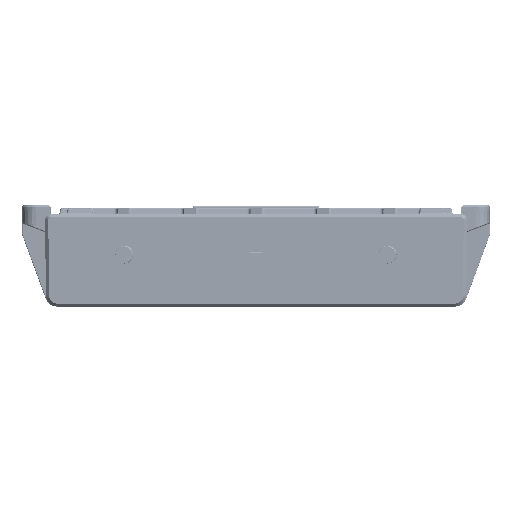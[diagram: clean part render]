
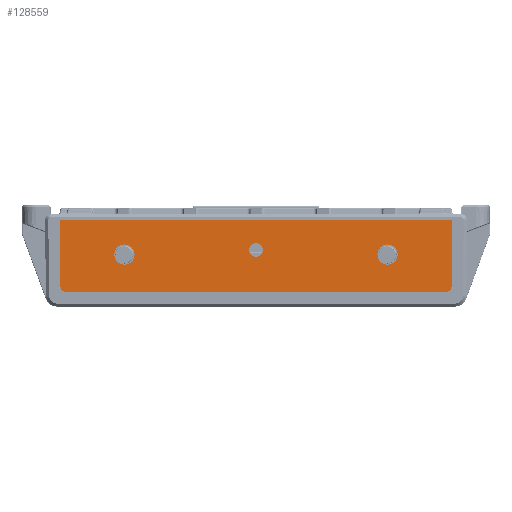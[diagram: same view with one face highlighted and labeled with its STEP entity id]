
A CAD part, left-side view. The second image highlights one B-rep face of the part: STEP entity #128559.
In plain terms, the highlighted planar face has unit normal (-1, 0, 0) as drawn and (0, 0, -1) by its records, which use the part's own axes.
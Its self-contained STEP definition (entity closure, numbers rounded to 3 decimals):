
#889 = EDGE_LOOP ( 'NONE', ( #57913, #52298, #76925, #78725, #153417, #41542 ) ) ;
#3992 = ORIENTED_EDGE ( 'NONE', *, *, #36856, .T. ) ;
#5456 = EDGE_CURVE ( 'NONE', #147754, #50718, #50248, .T. ) ;
#6188 = EDGE_CURVE ( 'NONE', #122253, #43166, #23574, .T. ) ;
#8045 = DIRECTION ( 'NONE',  ( 1., 0., 0. ) ) ;
#10442 = DIRECTION ( 'NONE',  ( 0., 0., 1. ) ) ;
#12851 = VERTEX_POINT ( 'NONE', #42984 ) ;
#14894 = CARTESIAN_POINT ( 'NONE',  ( -45.54, -12., 0. ) ) ;
#15693 = DIRECTION ( 'NONE',  ( 1., 0., 0. ) ) ;
#16447 = CARTESIAN_POINT ( 'NONE',  ( 65.782, -23., 0. ) ) ;
#17516 = EDGE_CURVE ( 'NONE', #133038, #157428, #42113, .T. ) ;
#17729 = CARTESIAN_POINT ( 'NONE',  ( 0., -10.4, 0. ) ) ;
#18870 = EDGE_LOOP ( 'NONE', ( #160213, #51392 ) ) ;
#22674 = DIRECTION ( 'NONE',  ( 0.009, -1., 0. ) ) ;
#23202 = ORIENTED_EDGE ( 'NONE', *, *, #115165, .T. ) ;
#23574 = LINE ( 'NONE', #107122, #27130 ) ;
#24865 = ORIENTED_EDGE ( 'NONE', *, *, #136828, .T. ) ;
#27130 = VECTOR ( 'NONE', #22674, 1000. ) ;
#32906 = DIRECTION ( 'NONE',  ( 1., 0., 0. ) ) ;
#35697 = VERTEX_POINT ( 'NONE', #134044 ) ;
#36856 = EDGE_CURVE ( 'NONE', #170337, #87526, #170851, .T. ) ;
#38575 = FACE_OUTER_BOUND ( 'NONE', #889, .T. ) ;
#38781 = LINE ( 'NONE', #122367, #177099 ) ;
#39866 = CARTESIAN_POINT ( 'NONE',  ( -2.35, -10.4, 0. ) ) ;
#41542 = ORIENTED_EDGE ( 'NONE', *, *, #17516, .F. ) ;
#42113 = LINE ( 'NONE', #136618, #121747 ) ;
#42308 = CARTESIAN_POINT ( 'NONE',  ( 2.35, -10.4, 0. ) ) ;
#42984 = CARTESIAN_POINT ( 'NONE',  ( 67.682, -23.017, 0. ) ) ;
#43166 = VERTEX_POINT ( 'NONE', #114363 ) ;
#43774 = DIRECTION ( 'NONE',  ( 1., 0., 0. ) ) ;
#44152 = CARTESIAN_POINT ( 'NONE',  ( -49.04, -12., 0. ) ) ;
#50248 = CIRCLE ( 'NONE', #122723, 3.5 ) ;
#50465 = FACE_BOUND ( 'NONE', #64769, .T. ) ;
#50718 = VERTEX_POINT ( 'NONE', #115375 ) ;
#51343 = FACE_BOUND ( 'NONE', #122116, .T. ) ;
#51392 = ORIENTED_EDGE ( 'NONE', *, *, #76229, .T. ) ;
#51537 = VERTEX_POINT ( 'NONE', #44152 ) ;
#52298 = ORIENTED_EDGE ( 'NONE', *, *, #6188, .F. ) ;
#56299 = AXIS2_PLACEMENT_3D ( 'NONE', #119473, #77716, #122160 ) ;
#57461 = AXIS2_PLACEMENT_3D ( 'NONE', #16447, #168218, #43774 ) ;
#57913 = ORIENTED_EDGE ( 'NONE', *, *, #73823, .F. ) ;
#60422 = EDGE_CURVE ( 'NONE', #35697, #122253, #76023, .T. ) ;
#63099 = ORIENTED_EDGE ( 'NONE', *, *, #5456, .T. ) ;
#63277 = CARTESIAN_POINT ( 'NONE',  ( 67.883, 0., 0. ) ) ;
#64769 = EDGE_LOOP ( 'NONE', ( #3992, #24865 ) ) ;
#65872 = FACE_BOUND ( 'NONE', #18870, .T. ) ;
#66196 = CIRCLE ( 'NONE', #170553, 2.35 ) ;
#70377 = DIRECTION ( 'NONE',  ( 0., 0., 1. ) ) ;
#72748 = CARTESIAN_POINT ( 'NONE',  ( -65.782, -24.9, 0. ) ) ;
#73206 = DIRECTION ( 'NONE',  ( 1., 0., 0. ) ) ;
#73823 = EDGE_CURVE ( 'NONE', #43166, #133038, #83268, .T. ) ;
#74447 = EDGE_CURVE ( 'NONE', #179180, #51537, #172962, .T. ) ;
#76023 = LINE ( 'NONE', #63277, #81216 ) ;
#76229 = EDGE_CURVE ( 'NONE', #51537, #179180, #121086, .T. ) ;
#76595 = EDGE_CURVE ( 'NONE', #157428, #12851, #127047, .T. ) ;
#76925 = ORIENTED_EDGE ( 'NONE', *, *, #60422, .F. ) ;
#77716 = DIRECTION ( 'NONE',  ( 0., 0., 1. ) ) ;
#77770 = DIRECTION ( 'NONE',  ( 1., 0., 0. ) ) ;
#78725 = ORIENTED_EDGE ( 'NONE', *, *, #81411, .F. ) ;
#81216 = VECTOR ( 'NONE', #159572, 1000. ) ;
#81411 = EDGE_CURVE ( 'NONE', #12851, #35697, #38781, .T. ) ;
#83268 = CIRCLE ( 'NONE', #140944, 1.9 ) ;
#87526 = VERTEX_POINT ( 'NONE', #39866 ) ;
#88917 = DIRECTION ( 'NONE',  ( 0., 0., 1. ) ) ;
#89200 = AXIS2_PLACEMENT_3D ( 'NONE', #14894, #70377, #99376 ) ;
#91327 = PLANE ( 'NONE',  #56299 ) ;
#95228 = CARTESIAN_POINT ( 'NONE',  ( -42.04, -12., 0. ) ) ;
#96468 = DIRECTION ( 'NONE',  ( 0., 0., 1. ) ) ;
#96843 = CIRCLE ( 'NONE', #140414, 3.5 ) ;
#99376 = DIRECTION ( 'NONE',  ( 1., 0., 0. ) ) ;
#103400 = DIRECTION ( 'NONE',  ( 1., 0., 0. ) ) ;
#107122 = CARTESIAN_POINT ( 'NONE',  ( -67.883, 0., 0. ) ) ;
#109153 = CARTESIAN_POINT ( 'NONE',  ( 45.54, -12., 0. ) ) ;
#112893 = CARTESIAN_POINT ( 'NONE',  ( -45.54, -12., 0. ) ) ;
#114363 = CARTESIAN_POINT ( 'NONE',  ( -67.682, -23.017, 0. ) ) ;
#115165 = EDGE_CURVE ( 'NONE', #50718, #147754, #96843, .T. ) ;
#115325 = DIRECTION ( 'NONE',  ( 0., 0., 1. ) ) ;
#115375 = CARTESIAN_POINT ( 'NONE',  ( 49.04, -12., 0. ) ) ;
#119473 = CARTESIAN_POINT ( 'NONE',  ( -65.782, -23., 0. ) ) ;
#121086 = CIRCLE ( 'NONE', #89200, 3.5 ) ;
#121747 = VECTOR ( 'NONE', #15693, 1000. ) ;
#122116 = EDGE_LOOP ( 'NONE', ( #23202, #63099 ) ) ;
#122160 = DIRECTION ( 'NONE',  ( 1., 0., 0. ) ) ;
#122217 = CARTESIAN_POINT ( 'NONE',  ( 45.54, -12., 0. ) ) ;
#122253 = VERTEX_POINT ( 'NONE', #143415 ) ;
#122367 = CARTESIAN_POINT ( 'NONE',  ( 67.682, -23.017, 0. ) ) ;
#122723 = AXIS2_PLACEMENT_3D ( 'NONE', #109153, #96468, #164599 ) ;
#123582 = AXIS2_PLACEMENT_3D ( 'NONE', #112893, #168339, #32906 ) ;
#127047 = CIRCLE ( 'NONE', #57461, 1.9 ) ;
#128559 = ADVANCED_FACE ( 'NONE', ( #50465, #51343, #65872, #38575 ), #91327, .F. ) ;
#133038 = VERTEX_POINT ( 'NONE', #72748 ) ;
#133400 = CARTESIAN_POINT ( 'NONE',  ( 0., -10.4, 0. ) ) ;
#134044 = CARTESIAN_POINT ( 'NONE',  ( 67.883, 0., 0. ) ) ;
#136618 = CARTESIAN_POINT ( 'NONE',  ( -65.782, -24.9, 0. ) ) ;
#136828 = EDGE_CURVE ( 'NONE', #87526, #170337, #66196, .T. ) ;
#138697 = DIRECTION ( 'NONE',  ( 0.009, 1., 0. ) ) ;
#140414 = AXIS2_PLACEMENT_3D ( 'NONE', #122217, #10442, #77770 ) ;
#140944 = AXIS2_PLACEMENT_3D ( 'NONE', #147089, #115325, #8045 ) ;
#143415 = CARTESIAN_POINT ( 'NONE',  ( -67.883, 0., 0. ) ) ;
#147089 = CARTESIAN_POINT ( 'NONE',  ( -65.782, -23., 0. ) ) ;
#147656 = AXIS2_PLACEMENT_3D ( 'NONE', #133400, #88917, #103400 ) ;
#147754 = VERTEX_POINT ( 'NONE', #171665 ) ;
#153417 = ORIENTED_EDGE ( 'NONE', *, *, #76595, .F. ) ;
#154987 = DIRECTION ( 'NONE',  ( 0., 0., 1. ) ) ;
#157428 = VERTEX_POINT ( 'NONE', #168101 ) ;
#159572 = DIRECTION ( 'NONE',  ( -1., 0., 0. ) ) ;
#160213 = ORIENTED_EDGE ( 'NONE', *, *, #74447, .T. ) ;
#164599 = DIRECTION ( 'NONE',  ( 1., 0., 0. ) ) ;
#168101 = CARTESIAN_POINT ( 'NONE',  ( 65.782, -24.9, 0. ) ) ;
#168218 = DIRECTION ( 'NONE',  ( 0., 0., 1. ) ) ;
#168339 = DIRECTION ( 'NONE',  ( 0., 0., 1. ) ) ;
#170337 = VERTEX_POINT ( 'NONE', #42308 ) ;
#170553 = AXIS2_PLACEMENT_3D ( 'NONE', #17729, #154987, #73206 ) ;
#170851 = CIRCLE ( 'NONE', #147656, 2.35 ) ;
#171665 = CARTESIAN_POINT ( 'NONE',  ( 42.04, -12., 0. ) ) ;
#172962 = CIRCLE ( 'NONE', #123582, 3.5 ) ;
#177099 = VECTOR ( 'NONE', #138697, 1000. ) ;
#179180 = VERTEX_POINT ( 'NONE', #95228 ) ;
